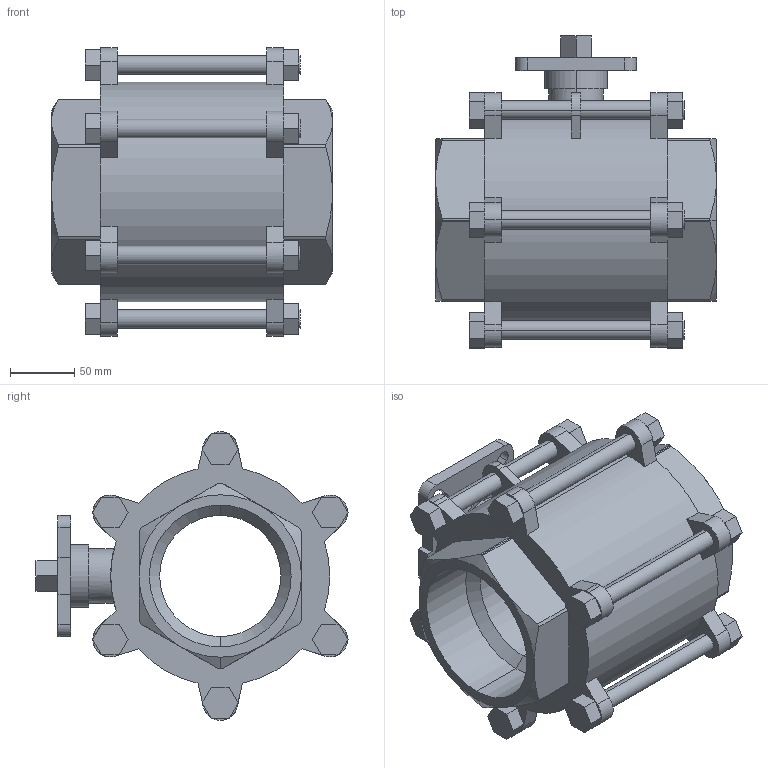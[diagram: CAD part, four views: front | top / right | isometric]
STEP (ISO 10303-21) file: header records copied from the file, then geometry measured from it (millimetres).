
FILE_DESCRIPTION (( 'STEP AP203' ), '1' );
FILE_NAME ('C3.622I1000FVPB0.STEP', '2018-10-12T15:05:26', ( '' ), ( '' ), 'SwSTEP 2.0', 'SolidWorks 2014', '' );
FILE_SCHEMA (( 'CONFIG_CONTROL_DESIGN' ));
Length unit declared in the file: millimetre
Products named in the file (1): C3.622I1000FVPB0
Bounding box: 218 x 242.16 x 224 mm (x, y, z)
Volume: 2947636.1 mm3; surface area: 297010.6 mm2
Topology: 1 solids, 1 shells, 371 faces, 948 edges, 593 vertices
Faces by surface type: plane 262, cylinder 91, cone 18
Entity records: 11496 total; most frequent: CARTESIAN_POINT 2235, DIRECTION 1937, ORIENTED_EDGE 1896, EDGE_CURVE 948, LINE 651, VECTOR 651, AXIS2_PLACEMENT_3D 643, VERTEX_POINT 593
